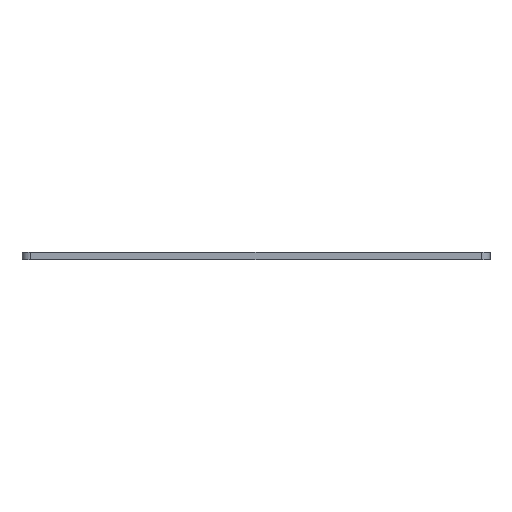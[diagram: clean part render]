
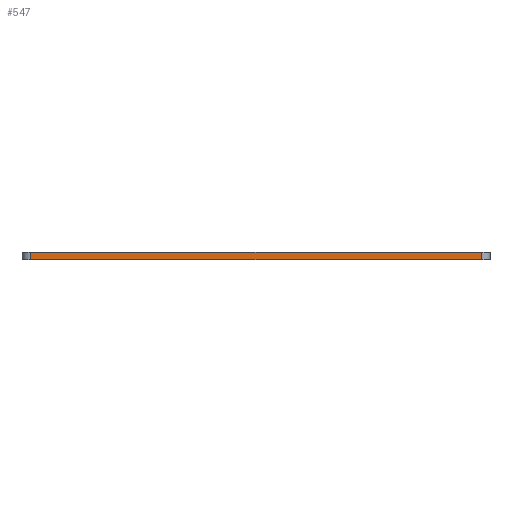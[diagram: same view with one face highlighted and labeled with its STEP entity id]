
A CAD part, front view. The second image highlights one B-rep face of the part: STEP entity #547.
In plain terms, the highlighted planar face has unit normal (0, -1, 0).
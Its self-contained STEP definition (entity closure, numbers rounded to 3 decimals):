
#21 = DIRECTION ( 'NONE',  ( -1., 0., 0. ) ) ;
#32 = DIRECTION ( 'NONE',  ( 1., 0., 0. ) ) ;
#37 = PLANE ( 'NONE',  #396 ) ;
#51 = CARTESIAN_POINT ( 'NONE',  ( 51.5, 0., 0.8 ) ) ;
#54 = LINE ( 'NONE', #539, #327 ) ;
#60 = CARTESIAN_POINT ( 'NONE',  ( 1., 0., 0. ) ) ;
#101 = EDGE_CURVE ( 'NONE', #411, #669, #295, .T. ) ;
#131 = EDGE_CURVE ( 'NONE', #180, #648, #503, .T. ) ;
#138 = CARTESIAN_POINT ( 'NONE',  ( 52.5, 0., 0.8 ) ) ;
#142 = ORIENTED_EDGE ( 'NONE', *, *, #511, .T. ) ;
#154 = CARTESIAN_POINT ( 'NONE',  ( 52.5, 0., 0.8 ) ) ;
#180 = VERTEX_POINT ( 'NONE', #249 ) ;
#194 = DIRECTION ( 'NONE',  ( 0., 0., 1. ) ) ;
#195 = VECTOR ( 'NONE', #685, 1000. ) ;
#227 = ORIENTED_EDGE ( 'NONE', *, *, #101, .T. ) ;
#249 = CARTESIAN_POINT ( 'NONE',  ( 1., 0., 0.8 ) ) ;
#295 = LINE ( 'NONE', #451, #603 ) ;
#321 = CARTESIAN_POINT ( 'NONE',  ( 51.5, 0., 0. ) ) ;
#327 = VECTOR ( 'NONE', #480, 1000. ) ;
#340 = ORIENTED_EDGE ( 'NONE', *, *, #678, .T. ) ;
#360 = VECTOR ( 'NONE', #194, 1000. ) ;
#396 = AXIS2_PLACEMENT_3D ( 'NONE', #154, #634, #21 ) ;
#409 = FACE_OUTER_BOUND ( 'NONE', #686, .T. ) ;
#411 = VERTEX_POINT ( 'NONE', #60 ) ;
#425 = ORIENTED_EDGE ( 'NONE', *, *, #131, .F. ) ;
#451 = CARTESIAN_POINT ( 'NONE',  ( 52.5, 0., 0. ) ) ;
#480 = DIRECTION ( 'NONE',  ( 0., 0., -1. ) ) ;
#503 = LINE ( 'NONE', #138, #195 ) ;
#511 = EDGE_CURVE ( 'NONE', #669, #648, #582, .T. ) ;
#539 = CARTESIAN_POINT ( 'NONE',  ( 1., 0., 0.8 ) ) ;
#547 = ADVANCED_FACE ( 'NONE', ( #409 ), #37, .F. ) ;
#582 = LINE ( 'NONE', #615, #360 ) ;
#603 = VECTOR ( 'NONE', #32, 1000. ) ;
#615 = CARTESIAN_POINT ( 'NONE',  ( 51.5, 0., 0.8 ) ) ;
#634 = DIRECTION ( 'NONE',  ( 0., 1., 0. ) ) ;
#648 = VERTEX_POINT ( 'NONE', #51 ) ;
#669 = VERTEX_POINT ( 'NONE', #321 ) ;
#678 = EDGE_CURVE ( 'NONE', #180, #411, #54, .T. ) ;
#685 = DIRECTION ( 'NONE',  ( 1., 0., 0. ) ) ;
#686 = EDGE_LOOP ( 'NONE', ( #227, #142, #425, #340 ) ) ;
